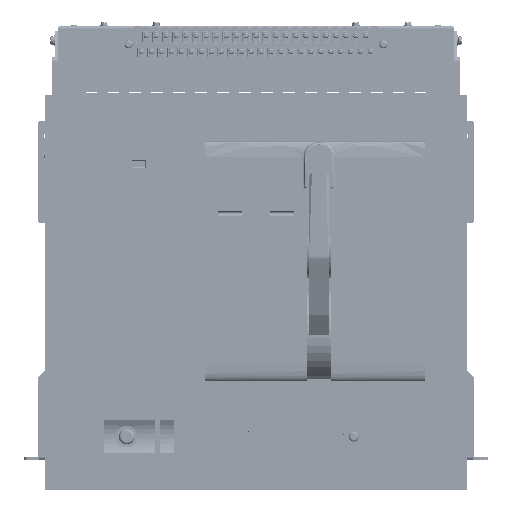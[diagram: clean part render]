
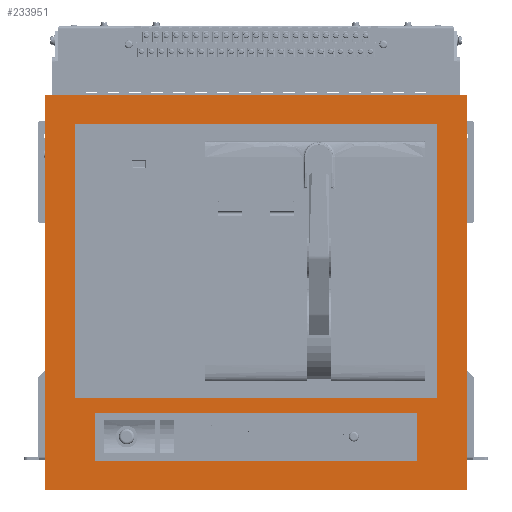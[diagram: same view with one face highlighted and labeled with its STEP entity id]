
A CAD part, top view. The second image highlights one B-rep face of the part: STEP entity #233951.
In plain terms, the highlighted planar face has unit normal (0, 0, 1) as drawn and (0, 1, 0) by its records, which use the part's own axes.
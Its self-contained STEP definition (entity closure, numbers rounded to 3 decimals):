
#6975 = VERTEX_POINT ( 'NONE', #323944 ) ;
#8519 = LINE ( 'NONE', #153193, #14941 ) ;
#9805 = DIRECTION ( 'NONE',  ( 1., 0., 0. ) ) ;
#14941 = VECTOR ( 'NONE', #270800, 1000. ) ;
#15329 = ORIENTED_EDGE ( 'NONE', *, *, #218349, .T. ) ;
#17880 = CARTESIAN_POINT ( 'NONE',  ( 182., 11., 106. ) ) ;
#22168 = ORIENTED_EDGE ( 'NONE', *, *, #372222, .T. ) ;
#23529 = ORIENTED_EDGE ( 'NONE', *, *, #301655, .T. ) ;
#32174 = AXIS2_PLACEMENT_3D ( 'NONE', #231581, #146707, #58014 ) ;
#37460 = CARTESIAN_POINT ( 'NONE',  ( 182., 11., -169. ) ) ;
#40506 = DIRECTION ( 'NONE',  ( 0., 0., 1. ) ) ;
#41498 = DIRECTION ( 'NONE',  ( 1., 0., 0. ) ) ;
#42853 = ORIENTED_EDGE ( 'NONE', *, *, #52980, .T. ) ;
#42903 = EDGE_LOOP ( 'NONE', ( #22168, #15329, #47685, #202821 ) ) ;
#46655 = VECTOR ( 'NONE', #107117, 1000. ) ;
#47685 = ORIENTED_EDGE ( 'NONE', *, *, #258966, .T. ) ;
#48128 = LINE ( 'NONE', #192771, #218454 ) ;
#48351 = CARTESIAN_POINT ( 'NONE',  ( -161.5, 11., 121. ) ) ;
#52980 = EDGE_CURVE ( 'NONE', #222907, #98916, #136043, .T. ) ;
#58014 = DIRECTION ( 'NONE',  ( 1., 0., 0. ) ) ;
#60652 = VECTOR ( 'NONE', #99854, 1000. ) ;
#68770 = DIRECTION ( 'NONE',  ( 0., 0., -1. ) ) ;
#73456 = VERTEX_POINT ( 'NONE', #280551 ) ;
#74259 = LINE ( 'NONE', #311345, #90941 ) ;
#82081 = CARTESIAN_POINT ( 'NONE',  ( -182., 11., -169. ) ) ;
#87204 = CARTESIAN_POINT ( 'NONE',  ( -182., 11., 106. ) ) ;
#90200 = VERTEX_POINT ( 'NONE', #332191 ) ;
#90941 = VECTOR ( 'NONE', #41498, 1000. ) ;
#96276 = CARTESIAN_POINT ( 'NONE',  ( 161.5, 11., 121. ) ) ;
#98916 = VERTEX_POINT ( 'NONE', #87204 ) ;
#99854 = DIRECTION ( 'NONE',  ( 0., 0., -1. ) ) ;
#102777 = EDGE_CURVE ( 'NONE', #177430, #170149, #8519, .T. ) ;
#107117 = DIRECTION ( 'NONE',  ( -1., 0., 0. ) ) ;
#108964 = LINE ( 'NONE', #255494, #114347 ) ;
#114347 = VECTOR ( 'NONE', #139822, 1000. ) ;
#115620 = ORIENTED_EDGE ( 'NONE', *, *, #102777, .T. ) ;
#115868 = PLANE ( 'NONE',  #32174 ) ;
#119633 = FACE_OUTER_BOUND ( 'NONE', #227457, .T. ) ;
#120507 = EDGE_CURVE ( 'NONE', #170149, #90200, #48128, .T. ) ;
#122405 = CARTESIAN_POINT ( 'NONE',  ( 212., 11., 198. ) ) ;
#124585 = LINE ( 'NONE', #361720, #199921 ) ;
#130400 = CARTESIAN_POINT ( 'NONE',  ( -161.5, 11., 169. ) ) ;
#132309 = LINE ( 'NONE', #130400, #286641 ) ;
#136043 = LINE ( 'NONE', #253658, #46655 ) ;
#139822 = DIRECTION ( 'NONE',  ( -1., 0., 0. ) ) ;
#146707 = DIRECTION ( 'NONE',  ( 0., 1., 0. ) ) ;
#153193 = CARTESIAN_POINT ( 'NONE',  ( 212., 11., -198. ) ) ;
#158568 = VECTOR ( 'NONE', #9805, 1000. ) ;
#160254 = VECTOR ( 'NONE', #209260, 1000. ) ;
#164293 = EDGE_CURVE ( 'NONE', #90200, #231777, #304780, .T. ) ;
#170149 = VERTEX_POINT ( 'NONE', #256880 ) ;
#172730 = ORIENTED_EDGE ( 'NONE', *, *, #260702, .T. ) ;
#175183 = CARTESIAN_POINT ( 'NONE',  ( 212., 11., -198. ) ) ;
#177430 = VERTEX_POINT ( 'NONE', #175183 ) ;
#181529 = VERTEX_POINT ( 'NONE', #307545 ) ;
#192771 = CARTESIAN_POINT ( 'NONE',  ( -212., 11., -198. ) ) ;
#199921 = VECTOR ( 'NONE', #242218, 1000. ) ;
#202821 = ORIENTED_EDGE ( 'NONE', *, *, #340148, .T. ) ;
#203880 = ORIENTED_EDGE ( 'NONE', *, *, #227694, .T. ) ;
#207372 = CARTESIAN_POINT ( 'NONE',  ( 161.5, 11., 121. ) ) ;
#209260 = DIRECTION ( 'NONE',  ( 0., 0., 1. ) ) ;
#212037 = VECTOR ( 'NONE', #273011, 1000. ) ;
#215034 = ORIENTED_EDGE ( 'NONE', *, *, #120507, .T. ) ;
#215188 = LINE ( 'NONE', #278678, #212037 ) ;
#218349 = EDGE_CURVE ( 'NONE', #6975, #376255, #132309, .T. ) ;
#218454 = VECTOR ( 'NONE', #40506, 1000. ) ;
#222907 = VERTEX_POINT ( 'NONE', #17880 ) ;
#223719 = CARTESIAN_POINT ( 'NONE',  ( -212., 11., 198. ) ) ;
#225075 = CARTESIAN_POINT ( 'NONE',  ( -182., 11., 106. ) ) ;
#227457 = EDGE_LOOP ( 'NONE', ( #317162, #366028, #115620, #215034 ) ) ;
#227694 = EDGE_CURVE ( 'NONE', #98916, #356771, #335092, .T. ) ;
#231581 = CARTESIAN_POINT ( 'NONE',  ( 0., 11., 0. ) ) ;
#231777 = VERTEX_POINT ( 'NONE', #122405 ) ;
#233951 = ADVANCED_FACE ( 'NONE', ( #235389, #347278, #119633 ), #115868, .T. ) ;
#235389 = FACE_BOUND ( 'NONE', #42903, .T. ) ;
#238115 = DIRECTION ( 'NONE',  ( 0., 0., 1. ) ) ;
#242218 = DIRECTION ( 'NONE',  ( 0., 0., -1. ) ) ;
#253658 = CARTESIAN_POINT ( 'NONE',  ( 182., 11., 106. ) ) ;
#255494 = CARTESIAN_POINT ( 'NONE',  ( 161.5, 11., 169. ) ) ;
#256880 = CARTESIAN_POINT ( 'NONE',  ( -212., 11., -198. ) ) ;
#258966 = EDGE_CURVE ( 'NONE', #376255, #297340, #215188, .T. ) ;
#258982 = EDGE_CURVE ( 'NONE', #231777, #177430, #124585, .T. ) ;
#260702 = EDGE_CURVE ( 'NONE', #73456, #222907, #297818, .T. ) ;
#270800 = DIRECTION ( 'NONE',  ( -1., 0., 0. ) ) ;
#273011 = DIRECTION ( 'NONE',  ( 1., 0., 0. ) ) ;
#278678 = CARTESIAN_POINT ( 'NONE',  ( -161.5, 11., 121. ) ) ;
#280087 = EDGE_LOOP ( 'NONE', ( #42853, #203880, #23529, #172730 ) ) ;
#280551 = CARTESIAN_POINT ( 'NONE',  ( 182., 11., -169. ) ) ;
#286641 = VECTOR ( 'NONE', #68770, 1000. ) ;
#297340 = VERTEX_POINT ( 'NONE', #96276 ) ;
#297818 = LINE ( 'NONE', #37460, #354583 ) ;
#301655 = EDGE_CURVE ( 'NONE', #356771, #73456, #74259, .T. ) ;
#304780 = LINE ( 'NONE', #223719, #158568 ) ;
#307545 = CARTESIAN_POINT ( 'NONE',  ( 161.5, 11., 169. ) ) ;
#311345 = CARTESIAN_POINT ( 'NONE',  ( -182., 11., -169. ) ) ;
#317162 = ORIENTED_EDGE ( 'NONE', *, *, #164293, .T. ) ;
#323944 = CARTESIAN_POINT ( 'NONE',  ( -161.5, 11., 169. ) ) ;
#332191 = CARTESIAN_POINT ( 'NONE',  ( -212., 11., 198. ) ) ;
#335092 = LINE ( 'NONE', #225075, #60652 ) ;
#340148 = EDGE_CURVE ( 'NONE', #297340, #181529, #377125, .T. ) ;
#347278 = FACE_BOUND ( 'NONE', #280087, .T. ) ;
#354583 = VECTOR ( 'NONE', #238115, 1000. ) ;
#356771 = VERTEX_POINT ( 'NONE', #82081 ) ;
#361720 = CARTESIAN_POINT ( 'NONE',  ( 212., 11., 198. ) ) ;
#366028 = ORIENTED_EDGE ( 'NONE', *, *, #258982, .T. ) ;
#372222 = EDGE_CURVE ( 'NONE', #181529, #6975, #108964, .T. ) ;
#376255 = VERTEX_POINT ( 'NONE', #48351 ) ;
#377125 = LINE ( 'NONE', #207372, #160254 ) ;
